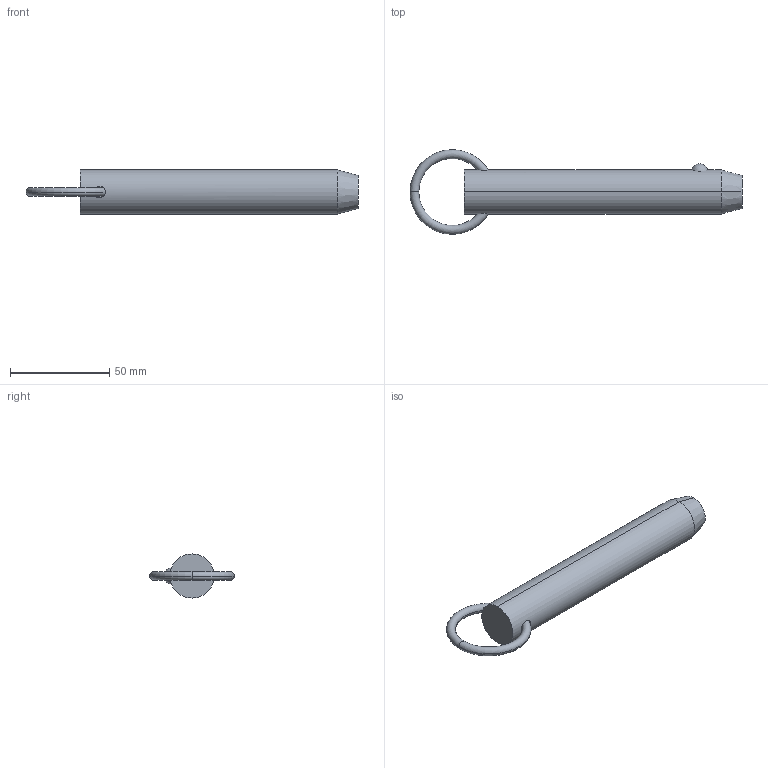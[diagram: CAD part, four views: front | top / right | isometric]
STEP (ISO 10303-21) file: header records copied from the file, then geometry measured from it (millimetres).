
FILE_DESCRIPTION (( 'STEP AP203' ), '1' );
FILE_NAME ('33010.W8840.step', '2024-11-01T10:46:02', ( '' ), ( '' ), 'SwSTEP 2.0', 'SolidWorks 2019', '' );
FILE_SCHEMA (( 'CONFIG_CONTROL_DESIGN' ));
Length unit declared in the file: millimetre
Products named in the file (3): Part1_33010.W8840; Part2_33010.W8840; 33010.W8840
Assembly tree (2 placements, depth 2):
  33010.W8840
    Part1_33010.W8840
    Part2_33010.W8840
Bounding box: 167.06 x 42.55 x 22.23 mm (x, y, z)
Volume: 54688.7 mm3; surface area: 12351.3 mm2
Topology: 2 solids, 2 shells, 16 faces, 31 edges, 18 vertices
Faces by surface type: torus 8, sphere 2, cone 2, cylinder 2, plane 2
Entity records: 903 total; most frequent: CARTESIAN_POINT 260, DIRECTION 88, ORIENTED_EDGE 62, AXIS2_PLACEMENT_3D 42, EDGE_CURVE 31, PERSON_AND_ORGANIZATION 26, CIRCLE 21, DATE_AND_TIME 19
